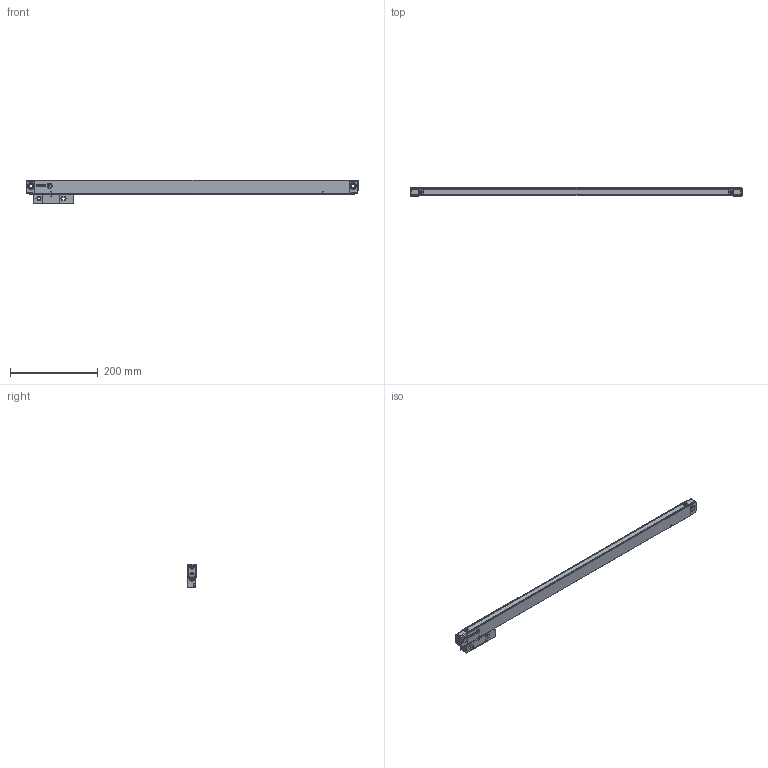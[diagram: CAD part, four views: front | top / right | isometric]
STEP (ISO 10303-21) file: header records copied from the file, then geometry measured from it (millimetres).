
FILE_DESCRIPTION(('Creo Elements/Direct Modeling STEP Export'),'2;1');
FILE_NAME('REGLA_S2-620.stp','2015-05-26T 9:36:59',(''),(''),'Creo Elements/Direct Modeling STEP processor for AP214 (Solid Model)','Creo Elements/Direct Modeling 18.1G 27-Feb-2015 (C) Parametric Technology GmbH','');
FILE_SCHEMA(('AUTOMOTIVE_DESIGN { 1 0 10303 214 1 1 1 1 }'));
Length unit declared in the file: millimetre
Products named in the file (3): CABEZA_RANURADA_REGLA_S; REGLA_S-620
Assembly tree (2 placements, depth 2):
  REGLA_S-620
    REGLA_S-620
    CABEZA_RANURADA_REGLA_S
Bounding box: 758 x 18.3 x 54.3 mm (x, y, z)
Volume: 423110.4 mm3; surface area: 114116.1 mm2
Topology: 2 solids, 19 shells, 827 faces, 2112 edges, 1359 vertices
Faces by surface type: plane 326, cylinder 287, cone 158, bspline 38, sphere 12, torus 6
Entity records: 29328 total; most frequent: CARTESIAN_POINT 6941, ORIENTED_EDGE 4180, DIRECTION 3618, EDGE_CURVE 2090, VERTEX_POINT 1359, AXIS2_PLACEMENT_3D 1252, VECTOR 1114, LINE 1114
